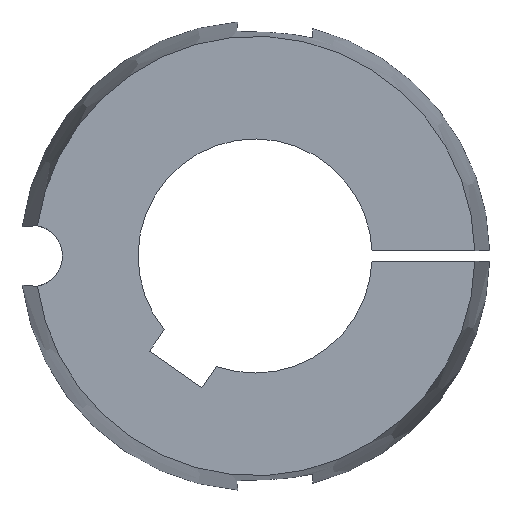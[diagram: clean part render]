
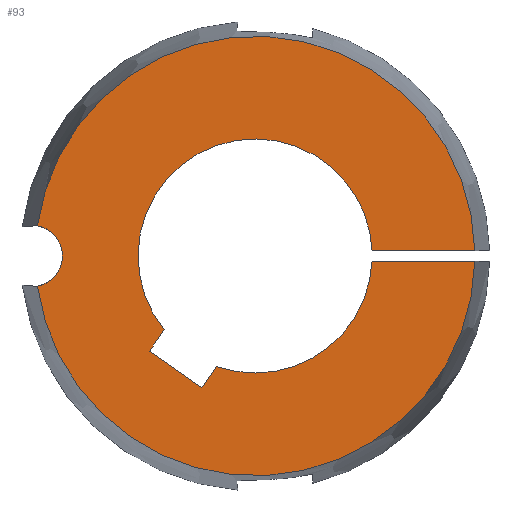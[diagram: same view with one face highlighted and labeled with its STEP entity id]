
A CAD part, left-side view. The second image highlights one B-rep face of the part: STEP entity #93.
In plain terms, the highlighted planar face has unit normal (-1, 0, 0).
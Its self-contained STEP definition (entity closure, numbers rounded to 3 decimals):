
#93 = ADVANCED_FACE( '', ( #136 ), #137, .T. );
#136 = FACE_OUTER_BOUND( '', #184, .T. );
#137 = PLANE( '', #185 );
#184 = EDGE_LOOP( '', ( #346, #347, #348, #349, #350, #351, #352, #353, #354, #355, #356, #357 ) );
#185 = AXIS2_PLACEMENT_3D( '', #358, #359, #360 );
#346 = ORIENTED_EDGE( '', *, *, #439, .T. );
#347 = ORIENTED_EDGE( '', *, *, #403, .T. );
#348 = ORIENTED_EDGE( '', *, *, #428, .T. );
#349 = ORIENTED_EDGE( '', *, *, #449, .T. );
#350 = ORIENTED_EDGE( '', *, *, #451, .T. );
#351 = ORIENTED_EDGE( '', *, *, #452, .T. );
#352 = ORIENTED_EDGE( '', *, *, #453, .T. );
#353 = ORIENTED_EDGE( '', *, *, #454, .T. );
#354 = ORIENTED_EDGE( '', *, *, #455, .T. );
#355 = ORIENTED_EDGE( '', *, *, #399, .T. );
#356 = ORIENTED_EDGE( '', *, *, #450, .T. );
#357 = ORIENTED_EDGE( '', *, *, #436, .T. );
#358 = CARTESIAN_POINT( '', ( -31.8, 16.388, 0. ) );
#359 = DIRECTION( '', ( -1., 0., 0. ) );
#360 = DIRECTION( '', ( 0., 1., 0. ) );
#399 = EDGE_CURVE( '', #461, #465, #467, .T. );
#403 = EDGE_CURVE( '', #469, #473, #475, .T. );
#428 = EDGE_CURVE( '', #473, #516, #518, .T. );
#436 = EDGE_CURVE( '', #530, #528, #531, .T. );
#439 = EDGE_CURVE( '', #528, #469, #535, .T. );
#449 = EDGE_CURVE( '', #516, #549, #551, .T. );
#450 = EDGE_CURVE( '', #465, #530, #552, .T. );
#451 = EDGE_CURVE( '', #549, #553, #554, .T. );
#452 = EDGE_CURVE( '', #553, #555, #556, .T. );
#453 = EDGE_CURVE( '', #555, #557, #558, .T. );
#454 = EDGE_CURVE( '', #557, #559, #560, .T. );
#455 = EDGE_CURVE( '', #559, #461, #561, .T. );
#461 = VERTEX_POINT( '', #567 );
#465 = VERTEX_POINT( '', #572 );
#467 = CIRCLE( '', #575, 17.463 );
#469 = VERTEX_POINT( '', #577 );
#473 = VERTEX_POINT( '', #582 );
#475 = CIRCLE( '', #593, 4.6 );
#516 = VERTEX_POINT( '', #776 );
#518 = CIRCLE( '', #787, 32.776 );
#528 = VERTEX_POINT( '', #839 );
#530 = VERTEX_POINT( '', #850 );
#531 = CIRCLE( '', #851, 32.776 );
#535 = CIRCLE( '', #864, 4.6 );
#549 = VERTEX_POINT( '', #883 );
#551 = LINE( '', #886, #887 );
#552 = LINE( '', #888, #889 );
#553 = VERTEX_POINT( '', #890 );
#554 = CIRCLE( '', #891, 17.463 );
#555 = VERTEX_POINT( '', #892 );
#556 = LINE( '', #893, #894 );
#557 = VERTEX_POINT( '', #895 );
#558 = LINE( '', #896, #897 );
#559 = VERTEX_POINT( '', #898 );
#560 = LINE( '', #899, #900 );
#561 = CIRCLE( '', #901, 17.463 );
#567 = CARTESIAN_POINT( '', ( -31.8, -13.538, 11.031 ) );
#572 = CARTESIAN_POINT( '', ( -31.8, -17.446, 0.75 ) );
#575 = AXIS2_PLACEMENT_3D( '', #915, #916, #917 );
#577 = CARTESIAN_POINT( '', ( -31.8, 28.74, 0. ) );
#582 = CARTESIAN_POINT( '', ( -31.8, 32.464, -4.516 ) );
#593 = AXIS2_PLACEMENT_3D( '', #922, #923, #924 );
#776 = CARTESIAN_POINT( '', ( -31.8, -32.768, -0.75 ) );
#787 = AXIS2_PLACEMENT_3D( '', #958, #959, #960 );
#839 = CARTESIAN_POINT( '', ( -31.8, 32.464, 4.516 ) );
#850 = CARTESIAN_POINT( '', ( -31.8, -32.768, 0.75 ) );
#851 = AXIS2_PLACEMENT_3D( '', #973, #974, #975 );
#864 = AXIS2_PLACEMENT_3D( '', #979, #980, #981 );
#883 = CARTESIAN_POINT( '', ( -31.8, -17.446, -0.75 ) );
#886 = CARTESIAN_POINT( '', ( -31.8, -9.306, -0.75 ) );
#887 = VECTOR( '', #997, 1. );
#888 = CARTESIAN_POINT( '', ( -31.8, 8.194, 0.75 ) );
#889 = VECTOR( '', #998, 1. );
#890 = CARTESIAN_POINT( '', ( -31.8, 5.735, -16.494 ) );
#891 = AXIS2_PLACEMENT_3D( '', #999, #1000, #1001 );
#892 = CARTESIAN_POINT( '', ( -31.8, 7.936, -19.637 ) );
#893 = CARTESIAN_POINT( '', ( -31.8, 3.613, -13.463 ) );
#894 = VECTOR( '', #1002, 1. );
#895 = CARTESIAN_POINT( '', ( -31.8, 15.738, -14.174 ) );
#896 = CARTESIAN_POINT( '', ( -31.8, 15.385, -14.421 ) );
#897 = VECTOR( '', #1003, 1. );
#898 = CARTESIAN_POINT( '', ( -31.8, 13.538, -11.031 ) );
#899 = CARTESIAN_POINT( '', ( -31.8, 12.516, -9.571 ) );
#900 = VECTOR( '', #1004, 1. );
#901 = AXIS2_PLACEMENT_3D( '', #1005, #1006, #1007 );
#915 = CARTESIAN_POINT( '', ( -31.8, 0., 0. ) );
#916 = DIRECTION( '', ( 1., 0., 0. ) );
#917 = DIRECTION( '', ( 0., 0.775, -0.632 ) );
#922 = CARTESIAN_POINT( '', ( -31.8, 33.34, 0. ) );
#923 = DIRECTION( '', ( 1., 0., 0. ) );
#924 = DIRECTION( '', ( 0., 1., 0. ) );
#958 = CARTESIAN_POINT( '', ( -31.8, 0., 0. ) );
#959 = DIRECTION( '', ( -1., 0., 0. ) );
#960 = DIRECTION( '', ( 0., 1., 0. ) );
#973 = CARTESIAN_POINT( '', ( -31.8, 0., 0. ) );
#974 = DIRECTION( '', ( -1., 0., 0. ) );
#975 = DIRECTION( '', ( 0., 1., 0. ) );
#979 = CARTESIAN_POINT( '', ( -31.8, 33.34, 0. ) );
#980 = DIRECTION( '', ( 1., 0., 0. ) );
#981 = DIRECTION( '', ( 0., 1., 0. ) );
#997 = DIRECTION( '', ( 0., 1., 0. ) );
#998 = DIRECTION( '', ( 0., -1., 0. ) );
#999 = CARTESIAN_POINT( '', ( -31.8, 0., 0. ) );
#1000 = DIRECTION( '', ( 1., 0., 0. ) );
#1001 = DIRECTION( '', ( 0., 0.775, -0.632 ) );
#1002 = DIRECTION( '', ( 0., 0.574, -0.819 ) );
#1003 = DIRECTION( '', ( 0., 0.819, 0.574 ) );
#1004 = DIRECTION( '', ( 0., -0.574, 0.819 ) );
#1005 = CARTESIAN_POINT( '', ( -31.8, 0., 0. ) );
#1006 = DIRECTION( '', ( 1., 0., 0. ) );
#1007 = DIRECTION( '', ( 0., 0.775, -0.632 ) );
